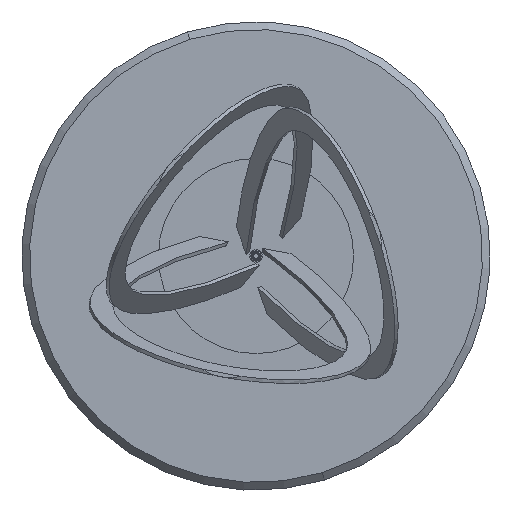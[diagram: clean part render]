
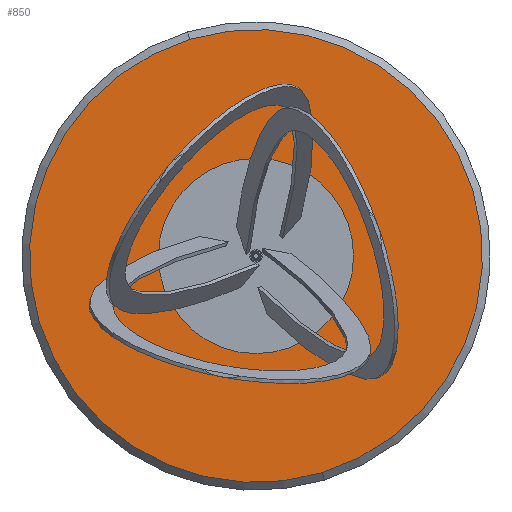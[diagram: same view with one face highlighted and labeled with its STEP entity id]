
A CAD part, front view. The second image highlights one B-rep face of the part: STEP entity #850.
In plain terms, the highlighted planar face has unit normal (0, -1, 0).
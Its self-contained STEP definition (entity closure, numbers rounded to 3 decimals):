
#13 = EDGE_LOOP ( 'NONE', ( #3396, #3097 ) ) ;
#28 = CARTESIAN_POINT ( 'NONE',  ( 0., 0., 290. ) ) ;
#30 = DIRECTION ( 'NONE',  ( 0., -1., 0. ) ) ;
#68 = EDGE_LOOP ( 'NONE', ( #3631, #3831 ) ) ;
#94 = FACE_BOUND ( 'NONE', #2493, .T. ) ;
#116 = EDGE_CURVE ( 'NONE', #195, #1544, #3135, .T. ) ;
#139 = VERTEX_POINT ( 'NONE', #28 ) ;
#195 = VERTEX_POINT ( 'NONE', #3274 ) ;
#291 = ORIENTED_EDGE ( 'NONE', *, *, #2234, .T. ) ;
#300 = CARTESIAN_POINT ( 'NONE',  ( 0., 0., 61.135 ) ) ;
#389 = CIRCLE ( 'NONE', #666, 3.4 ) ;
#430 = CARTESIAN_POINT ( 'NONE',  ( 0., 0., 0. ) ) ;
#446 = DIRECTION ( 'NONE',  ( 0., 0., -1. ) ) ;
#493 = CARTESIAN_POINT ( 'NONE',  ( 0., 0., 54.335 ) ) ;
#532 = FACE_BOUND ( 'NONE', #3180, .T. ) ;
#543 = DIRECTION ( 'NONE',  ( 0., -1., 0. ) ) ;
#566 = VERTEX_POINT ( 'NONE', #1577 ) ;
#666 = AXIS2_PLACEMENT_3D ( 'NONE', #3231, #1538, #1215 ) ;
#831 = CARTESIAN_POINT ( 'NONE',  ( 0., 0., 57.735 ) ) ;
#850 = ADVANCED_FACE ( 'NONE', ( #94, #862, #532, #1768, #2897 ), #3483, .T. ) ;
#862 = FACE_BOUND ( 'NONE', #68, .T. ) ;
#873 = CARTESIAN_POINT ( 'NONE',  ( -50., 0., -28.868 ) ) ;
#996 = CARTESIAN_POINT ( 'NONE',  ( 50., 0., -25.468 ) ) ;
#1074 = CARTESIAN_POINT ( 'NONE',  ( 0., 0., 0. ) ) ;
#1103 = CIRCLE ( 'NONE', #4279, 3.4 ) ;
#1160 = AXIS2_PLACEMENT_3D ( 'NONE', #430, #1462, #1787 ) ;
#1167 = ORIENTED_EDGE ( 'NONE', *, *, #4161, .T. ) ;
#1215 = DIRECTION ( 'NONE',  ( 0., 0., -1. ) ) ;
#1305 = VERTEX_POINT ( 'NONE', #996 ) ;
#1343 = EDGE_CURVE ( 'NONE', #4318, #3912, #2800, .T. ) ;
#1399 = DIRECTION ( 'NONE',  ( 0., 0., -1. ) ) ;
#1462 = DIRECTION ( 'NONE',  ( 0., -1., 0. ) ) ;
#1466 = CIRCLE ( 'NONE', #2375, 3.4 ) ;
#1515 = EDGE_CURVE ( 'NONE', #566, #1305, #389, .T. ) ;
#1538 = DIRECTION ( 'NONE',  ( 0., -1., 0. ) ) ;
#1544 = VERTEX_POINT ( 'NONE', #4210 ) ;
#1577 = CARTESIAN_POINT ( 'NONE',  ( 50., 0., -32.268 ) ) ;
#1611 = ORIENTED_EDGE ( 'NONE', *, *, #1343, .F. ) ;
#1675 = DIRECTION ( 'NONE',  ( 0., 0., -1. ) ) ;
#1691 = CIRCLE ( 'NONE', #3513, 290. ) ;
#1728 = VERTEX_POINT ( 'NONE', #3134 ) ;
#1746 = DIRECTION ( 'NONE',  ( 0., 0., -1. ) ) ;
#1768 = FACE_BOUND ( 'NONE', #13, .T. ) ;
#1787 = DIRECTION ( 'NONE',  ( 0., 0., -1. ) ) ;
#1817 = DIRECTION ( 'NONE',  ( 0., 0., -1. ) ) ;
#1829 = CIRCLE ( 'NONE', #2038, 3.4 ) ;
#1864 = DIRECTION ( 'NONE',  ( 0., -1., 0. ) ) ;
#1947 = EDGE_CURVE ( 'NONE', #4052, #1728, #1466, .T. ) ;
#1959 = CIRCLE ( 'NONE', #3087, 3.4 ) ;
#1988 = EDGE_CURVE ( 'NONE', #3912, #4318, #2930, .T. ) ;
#2038 = AXIS2_PLACEMENT_3D ( 'NONE', #3481, #2840, #446 ) ;
#2189 = DIRECTION ( 'NONE',  ( 0., -1., 0. ) ) ;
#2234 = EDGE_CURVE ( 'NONE', #139, #2698, #3724, .T. ) ;
#2375 = AXIS2_PLACEMENT_3D ( 'NONE', #873, #543, #1817 ) ;
#2427 = CARTESIAN_POINT ( 'NONE',  ( 0., 0., 0. ) ) ;
#2454 = DIRECTION ( 'NONE',  ( 0., -1., 0. ) ) ;
#2488 = DIRECTION ( 'NONE',  ( 0., 0., -1. ) ) ;
#2493 = EDGE_LOOP ( 'NONE', ( #3590, #3066 ) ) ;
#2504 = EDGE_CURVE ( 'NONE', #1728, #4052, #1103, .T. ) ;
#2519 = AXIS2_PLACEMENT_3D ( 'NONE', #3007, #3300, #1675 ) ;
#2669 = DIRECTION ( 'NONE',  ( 0., 0., -1. ) ) ;
#2698 = VERTEX_POINT ( 'NONE', #2755 ) ;
#2755 = CARTESIAN_POINT ( 'NONE',  ( 0., 0., -290. ) ) ;
#2800 = CIRCLE ( 'NONE', #2519, 3.4 ) ;
#2840 = DIRECTION ( 'NONE',  ( 0., -1., 0. ) ) ;
#2897 = FACE_OUTER_BOUND ( 'NONE', #2960, .T. ) ;
#2930 = CIRCLE ( 'NONE', #4347, 3.4 ) ;
#2960 = EDGE_LOOP ( 'NONE', ( #291, #1167 ) ) ;
#2968 = CARTESIAN_POINT ( 'NONE',  ( -50., 0., -28.868 ) ) ;
#3007 = CARTESIAN_POINT ( 'NONE',  ( 0., 0., 57.735 ) ) ;
#3055 = CARTESIAN_POINT ( 'NONE',  ( 0., 0., 0. ) ) ;
#3063 = CARTESIAN_POINT ( 'NONE',  ( 0., 0., 0. ) ) ;
#3066 = ORIENTED_EDGE ( 'NONE', *, *, #1947, .F. ) ;
#3087 = AXIS2_PLACEMENT_3D ( 'NONE', #3063, #2454, #1399 ) ;
#3097 = ORIENTED_EDGE ( 'NONE', *, *, #116, .F. ) ;
#3134 = CARTESIAN_POINT ( 'NONE',  ( -50., 0., -32.268 ) ) ;
#3135 = CIRCLE ( 'NONE', #4201, 3.4 ) ;
#3156 = DIRECTION ( 'NONE',  ( 0., 0., -1. ) ) ;
#3180 = EDGE_LOOP ( 'NONE', ( #1611, #3720 ) ) ;
#3220 = AXIS2_PLACEMENT_3D ( 'NONE', #2427, #30, #1746 ) ;
#3231 = CARTESIAN_POINT ( 'NONE',  ( 50., 0., -28.868 ) ) ;
#3274 = CARTESIAN_POINT ( 'NONE',  ( 0., 0., 3.4 ) ) ;
#3300 = DIRECTION ( 'NONE',  ( 0., -1., 0. ) ) ;
#3396 = ORIENTED_EDGE ( 'NONE', *, *, #3770, .F. ) ;
#3413 = CARTESIAN_POINT ( 'NONE',  ( -50., 0., -25.468 ) ) ;
#3462 = DIRECTION ( 'NONE',  ( 0., -1., 0. ) ) ;
#3481 = CARTESIAN_POINT ( 'NONE',  ( 50., 0., -28.868 ) ) ;
#3483 = PLANE ( 'NONE',  #1160 ) ;
#3513 = AXIS2_PLACEMENT_3D ( 'NONE', #3055, #3462, #4110 ) ;
#3590 = ORIENTED_EDGE ( 'NONE', *, *, #2504, .F. ) ;
#3631 = ORIENTED_EDGE ( 'NONE', *, *, #1515, .F. ) ;
#3720 = ORIENTED_EDGE ( 'NONE', *, *, #1988, .F. ) ;
#3724 = CIRCLE ( 'NONE', #3220, 290. ) ;
#3770 = EDGE_CURVE ( 'NONE', #1544, #195, #1959, .T. ) ;
#3831 = ORIENTED_EDGE ( 'NONE', *, *, #4241, .F. ) ;
#3912 = VERTEX_POINT ( 'NONE', #300 ) ;
#4052 = VERTEX_POINT ( 'NONE', #3413 ) ;
#4110 = DIRECTION ( 'NONE',  ( 0., 0., -1. ) ) ;
#4161 = EDGE_CURVE ( 'NONE', #2698, #139, #1691, .T. ) ;
#4201 = AXIS2_PLACEMENT_3D ( 'NONE', #1074, #1864, #2488 ) ;
#4210 = CARTESIAN_POINT ( 'NONE',  ( 0., 0., -3.4 ) ) ;
#4241 = EDGE_CURVE ( 'NONE', #1305, #566, #1829, .T. ) ;
#4279 = AXIS2_PLACEMENT_3D ( 'NONE', #2968, #4315, #2669 ) ;
#4315 = DIRECTION ( 'NONE',  ( 0., -1., 0. ) ) ;
#4318 = VERTEX_POINT ( 'NONE', #493 ) ;
#4347 = AXIS2_PLACEMENT_3D ( 'NONE', #831, #2189, #3156 ) ;
